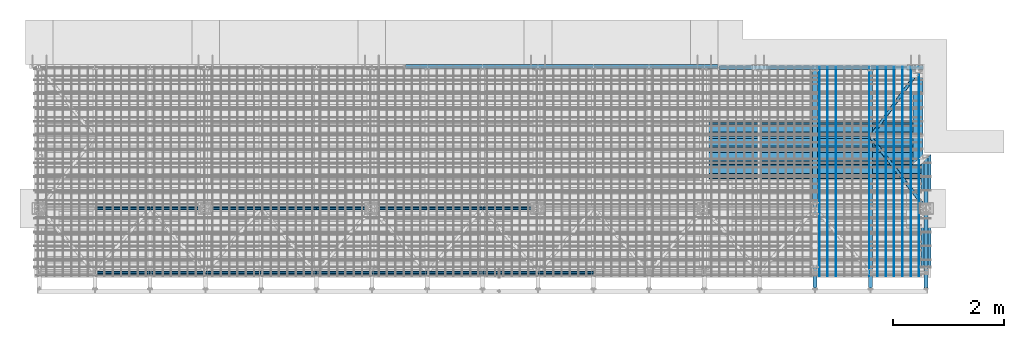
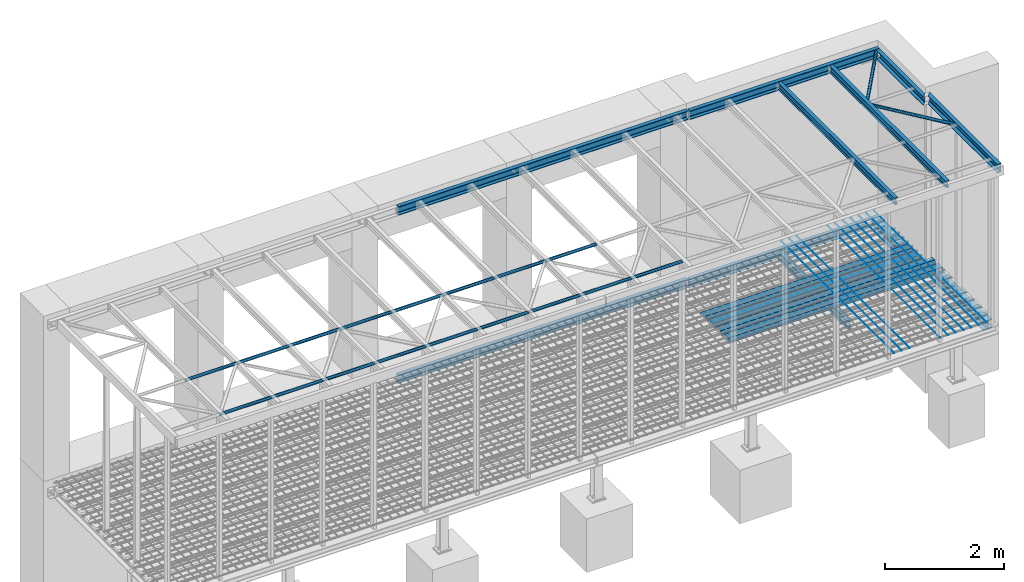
# One storey, part 9 of 26: 41 beams, 41 elements without a shape of their own.
"""IFC2X3 building model written with IfcOpenShell, lengths in millimetres."""

import ifcopenshell
import ifcopenshell.guid

model = None  # the IFC model being written
_history = None  # IfcOwnerHistory: only IFC2X3 demands one
_inside = {}  # id of a spatial element -> (the spatial element, [elements in it])
_under = {}  # id of a project, library or spatial element -> (it, [spatial elements below it])
_declared = {}  # id of a project -> (the project, [libraries it declares])
_typed = {}  # id of a type object -> (the type object, [elements of that type])
_made_of = {}  # id of a material, layer set ... -> (it, [elements and type objects made of it])


def new_model(schema):
    """Start an empty IFC model of exactly this schema.

    Asked for "IFC4X3", IfcOpenShell would pick the latest addendum, in which some entities
    have other attributes; the version numbers below select the first issue.
    IFC2X3 requires an IfcOwnerHistory on every rooted entity: one is made here for all.
    """
    global model, _history
    if schema == "IFC4X3":
        model = ifcopenshell.file(schema_version=(4, 3, 0, 0))
    else:
        model = ifcopenshell.file(schema=schema)
    _inside.clear()
    _under.clear()
    _declared.clear()
    _typed.clear()
    _made_of.clear()
    _history = None
    if model.schema == "IFC2X3":
        org = make("IfcOrganization", Name="unknown")
        user = make(
            "IfcPersonAndOrganization",
            ThePerson=make("IfcPerson", FamilyName="unknown"),
            TheOrganization=org,
        )
        app = make(
            "IfcApplication",
            ApplicationDeveloper=org,
            Version="unknown",
            ApplicationFullName="unknown",
            ApplicationIdentifier="unknown",
        )
        _history = make(
            "IfcOwnerHistory",
            OwningUser=user,
            OwningApplication=app,
            ChangeAction="ADDED",
            CreationDate=0,
        )
    return model


def make(cls, **values):
    """One entity of the class cls with the attributes given. An attribute that is None is left unset."""
    return model.create_entity(
        cls, **{name: value for name, value in values.items() if value is not None}
    )


def rooted(cls, **values):
    """An entity with a GlobalId (a new one), such as an element, a storey or a relation."""
    return make(cls, GlobalId=ifcopenshell.guid.new(), OwnerHistory=_history, **values)


def si_unit(unit_type, name, prefix=None):
    """IfcSIUnit, for example si_unit("LENGTHUNIT", "METRE", prefix="MILLI")."""
    return make("IfcSIUnit", UnitType=unit_type, Prefix=prefix, Name=name)


def assignment(units):
    """IfcUnitAssignment: the units of a project."""
    return None if units is None else make("IfcUnitAssignment", Units=units)


def point(xyz):
    """IfcCartesianPoint."""
    return None if xyz is None else make("IfcCartesianPoint", Coordinates=xyz)


def direction(xyz):
    """IfcDirection."""
    return None if xyz is None else make("IfcDirection", DirectionRatios=xyz)


def frame(location, z_axis=None, x_axis=None):
    """IfcAxis2Placement3D, a coordinate frame: its origin and axes. An axis left out is left unset."""
    return make(
        "IfcAxis2Placement3D",
        Location=point(location),
        Axis=direction(z_axis),
        RefDirection=direction(x_axis),
    )


def frame_2d(location, x_axis=None):
    """IfcAxis2Placement2D, a coordinate frame in the plane: its origin and x axis."""
    return make(
        "IfcAxis2Placement2D", Location=point(location), RefDirection=direction(x_axis)
    )


def origin_with_axes():
    """The frame at (0, 0, 0) with the z axis (0, 0, 1) and the x axis (1, 0, 0) written out."""
    return frame((0.0, 0.0, 0.0), z_axis=(0.0, 0.0, 1.0), x_axis=(1.0, 0.0, 0.0))


def origin_2d_with_axis():
    """The frame at (0, 0) in the plane with the x axis (1, 0) written out."""
    return frame_2d((0.0, 0.0), x_axis=(1.0, 0.0))


def place(relative_to, where):
    """IfcLocalPlacement: puts the frame where relative to a parent placement (None: the world)."""
    return make(
        "IfcLocalPlacement", PlacementRelTo=relative_to, RelativePlacement=where
    )


def context(
    kind, dimensions, precision=None, world=None, true_north=None, identifier=None
):
    """IfcGeometricRepresentationContext, for example the 3D "Model" context."""
    return make(
        "IfcGeometricRepresentationContext",
        ContextIdentifier=identifier,
        ContextType=kind,
        CoordinateSpaceDimension=dimensions,
        Precision=precision,
        WorldCoordinateSystem=world,
        TrueNorth=true_north,
    )


def subcontext(parent, identifier, kind, view, scale=None):
    """IfcGeometricRepresentationSubContext, for example "Body" below "Model"."""
    return make(
        "IfcGeometricRepresentationSubContext",
        ContextIdentifier=identifier,
        ContextType=kind,
        ParentContext=parent,
        TargetScale=scale,
        TargetView=view,
    )


def project(units=None, contexts=None):
    """IfcProject with its units and contexts."""
    return rooted(
        "IfcProject",
        Name="project",
        RepresentationContexts=contexts,
        UnitsInContext=assignment(units),
    )


def spatial(cls, under=None, at=None, **own):
    """A site, building, storey or space (cls), placed at a placement, below another one or the project."""
    s = rooted(cls, ObjectPlacement=at, **own)
    if under is not None:
        _under.setdefault(under.id(), (under, []))[1].append(s)
    return s


def polyline(points):
    """IfcPolyline through the points."""
    return make("IfcPolyline", Points=[point(p) for p in points])


def profile(cls, at=None, kind="AREA", **sizes):
    """A parametric profile (cls). Its sizes go by their IFC names, for example OverallWidth=200.0."""
    return make(cls, ProfileType=kind, Position=at, **sizes)


def circle(**sizes):
    """IfcCircleProfileDef."""
    return profile("IfcCircleProfileDef", **sizes)


def hollow_circle(**sizes):
    """IfcCircleHollowProfileDef."""
    return profile("IfcCircleHollowProfileDef", **sizes)


def i_section(**sizes):
    """IfcIShapeProfileDef."""
    return profile("IfcIShapeProfileDef", **sizes)


def u_section(**sizes):
    """IfcUShapeProfileDef."""
    return profile("IfcUShapeProfileDef", **sizes)


def outline(outer, holes=None, kind="AREA"):
    """IfcArbitraryClosedProfileDef: a profile drawn as a closed curve; with holes, ...WithVoids."""
    if holes is None:
        return make("IfcArbitraryClosedProfileDef", ProfileType=kind, OuterCurve=outer)
    return make(
        "IfcArbitraryProfileDefWithVoids",
        ProfileType=kind,
        OuterCurve=outer,
        InnerCurves=holes,
    )


def extrude(swept, where, along, depth):
    """IfcExtrudedAreaSolid: the profile swept, set in the frame where, extruded along a direction by depth."""
    return make(
        "IfcExtrudedAreaSolid",
        SweptArea=swept,
        Position=where,
        ExtrudedDirection=direction(along),
        Depth=depth,
    )


def boolean(op, a, b):
    """IfcBooleanResult of two solids."""
    return make("IfcBooleanResult", Operator=op, FirstOperand=a, SecondOperand=b)


def clip(a, b, op="DIFFERENCE"):
    """IfcBooleanClippingResult: the solid a cut by the half space b."""
    return make(
        "IfcBooleanClippingResult", Operator=op, FirstOperand=a, SecondOperand=b
    )


def halfspace(plane, agree):
    """IfcHalfSpaceSolid: all space on one side of the plane z = 0 of the frame plane."""
    return make(
        "IfcHalfSpaceSolid",
        BaseSurface=make("IfcPlane", Position=plane),
        AgreementFlag=agree,
    )


def shape(context_of_items, identifier, shape_type, items):
    """IfcShapeRepresentation: the items that make up one representation, for example the "Body"."""
    return make(
        "IfcShapeRepresentation",
        ContextOfItems=context_of_items,
        RepresentationIdentifier=identifier,
        RepresentationType=shape_type,
        Items=items,
    )


def material(Name=None, Category=None):
    """IfcMaterial."""
    return make("IfcMaterial", Name=Name, Category=Category)


def made_of(thing, what):
    """Note that an element or type object is made of a material, layer set ...; save() writes the relation."""
    if what is not None:
        _made_of.setdefault(what.id(), (what, []))[1].append(thing)
    return thing


def type_object(cls, material=None, **own):
    """A type object (cls), such as IfcWallType, which elements share."""
    return made_of(rooted(cls, **own), material)


def element(
    cls,
    number,
    at=None,
    inside=None,
    cuts=None,
    type_object=None,
    material=None,
    context=None,
    identifier="Body",
    shape_type=None,
    held_by="IfcProductDefinitionShape",
    body=None,
    shapes=None,
    **own,
):
    """One element of the class cls, such as IfcWall. Its Tag is "e" and its number.

    at: its placement. inside: the storey or other place that contains it. cuts: it is an
    opening in that element (IfcRelVoidsElement). A single representation is given by context,
    identifier, shape_type and body (its items); several are given by shapes. held_by: the class
    of the entity that holds the representations. save() writes the other relations.
    """
    e = rooted(cls, Tag="e%d" % number, ObjectPlacement=at, **own)
    if body is not None:
        shapes = [shape(context, identifier, shape_type, body)]
    if shapes is not None:
        e.Representation = make(held_by, Representations=shapes)
    if inside is not None:
        _inside.setdefault(inside.id(), (inside, []))[1].append(e)
    if cuts is not None:
        rooted(
            "IfcRelVoidsElement", RelatingBuildingElement=cuts, RelatedOpeningElement=e
        )
    if type_object is not None:
        _typed.setdefault(type_object.id(), (type_object, []))[1].append(e)
    return made_of(e, material)


def aggregate(whole, parts):
    """IfcRelAggregates: a whole, such as a stair, and the parts it consists of."""
    return rooted("IfcRelAggregates", RelatingObject=whole, RelatedObjects=parts)


def save(model, path):
    """Write the relations noted so far, then the file.

    IfcRelAggregates (storeys below a building ...), IfcRelContainedInSpatialStructure (elements
    in a storey), IfcRelDefinesByType, IfcRelAssociatesMaterial and IfcRelDeclares: one each for
    every whole, place, type object, material and project.
    """
    for whole, parts in _under.values():
        aggregate(whole, parts)
    for where, things in _inside.values():
        rooted(
            "IfcRelContainedInSpatialStructure",
            RelatedElements=things,
            RelatingStructure=where,
        )
    for kind, things in _typed.values():
        rooted("IfcRelDefinesByType", RelatedObjects=things, RelatingType=kind)
    for what, things in _made_of.values():
        rooted("IfcRelAssociatesMaterial", RelatedObjects=things, RelatingMaterial=what)
    for by, libraries in _declared.values():
        rooted("IfcRelDeclares", RelatingContext=by, RelatedDefinitions=libraries)
    model.write(path)


model = new_model("IFC2X3")

# Units and contexts
model_context = context("Model", 3, precision=1e-05, world=origin_with_axes())
body_context = subcontext(model_context, "Body", "Model", "MODEL_VIEW")
ifc_project = project(units=[si_unit("LENGTHUNIT", "METRE", prefix="MILLI"), si_unit("AREAUNIT", "SQUARE_METRE"), si_unit("VOLUMEUNIT", "CUBIC_METRE"), si_unit("MASSUNIT", "GRAM", prefix="KILO"), si_unit("TIMEUNIT", "SECOND"), si_unit("PLANEANGLEUNIT", "RADIAN"), si_unit("SOLIDANGLEUNIT", "STERADIAN"), si_unit("THERMODYNAMICTEMPERATUREUNIT", "DEGREE_CELSIUS"), si_unit("LUMINOUSINTENSITYUNIT", "LUMEN")], contexts=[model_context])

# Site, building, storey
site_placement = place(None, origin_with_axes())
site = spatial("IfcSite", under=ifc_project, at=site_placement, Name="Undefined", CompositionType="ELEMENT")
building_placement = place(site_placement, origin_with_axes())
building = spatial("IfcBuilding", under=site, at=building_placement, Name="Undefined", CompositionType="ELEMENT")
storey_placement = place(building_placement, origin_with_axes())
storey = spatial("IfcBuildingStorey", under=building, at=storey_placement, Name="Undefined", CompositionType="ELEMENT", Elevation=0.0)

# Assembly, beam
assembly_1_placement = place(storey_placement, origin_with_axes())
assembly_1 = element("IfcElementAssembly", 1, at=assembly_1_placement, inside=storey, Name="Steel Assembly", AssemblyPlace="NOTDEFINED", PredefinedType="RIGID_FRAME")
ifc_material = material(Name="STEEL/S235JR")
beam_type_1 = type_object("IfcBeamType", Name="D8", PredefinedType="NOTDEFINED")
beam_1_placement = place(assembly_1_placement, frame((15927.5, 3814.99758213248, -49.0), z_axis=(0.0, 0.0, 1.0), x_axis=(0.0, -1.0, 0.0)))
beam_1 = element("IfcBeam", 2, at=beam_1_placement, type_object=beam_type_1, material=ifc_material, Name="VÝSTUZ PLECHODOSKA", ObjectType="D8", context=body_context, shape_type="SweptSolid", body=[
    extrude(circle(Radius=4.0, at=origin_2d_with_axis()), frame((3779.99758213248, 0.0, 0.0), z_axis=(-1.0, 0.0, 0.0), x_axis=(0.0, -1.0, 0.0)), (0.0, 0.0, 1.0), 3780.0),
])
aggregate(assembly_1, [beam_1])

assembly_2_placement = place(storey_placement, origin_with_axes())
assembly_2 = element("IfcElementAssembly", 3, at=assembly_2_placement, inside=storey, Name="Steel Assembly", AssemblyPlace="NOTDEFINED", PredefinedType="RIGID_FRAME")
beam_2_placement = place(assembly_2_placement, frame((15777.5, 3814.99758213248, -49.0), z_axis=(0.0, 0.0, 1.0), x_axis=(0.0, -1.0, 0.0)))
beam_2 = element("IfcBeam", 4, at=beam_2_placement, type_object=beam_type_1, material=ifc_material, Name="VÝSTUZ PLECHODOSKA", ObjectType="D8", context=body_context, shape_type="SweptSolid", body=[
    extrude(circle(Radius=4.0, at=origin_2d_with_axis()), frame((3779.99758213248, 0.0, 0.0), z_axis=(-1.0, 0.0, 0.0), x_axis=(0.0, -1.0, 0.0)), (0.0, 0.0, 1.0), 3780.0),
])
aggregate(assembly_2, [beam_2])

assembly_3_placement = place(storey_placement, origin_with_axes())
assembly_3 = element("IfcElementAssembly", 5, at=assembly_3_placement, inside=storey, Name="Steel Assembly", AssemblyPlace="NOTDEFINED", PredefinedType="RIGID_FRAME")
beam_3_placement = place(assembly_3_placement, frame((15627.5, 3814.99758213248, -49.0), z_axis=(0.0, 0.0, 1.0), x_axis=(0.0, -1.0, 0.0)))
beam_3 = element("IfcBeam", 6, at=beam_3_placement, type_object=beam_type_1, material=ifc_material, Name="VÝSTUZ PLECHODOSKA", ObjectType="D8", context=body_context, shape_type="SweptSolid", body=[
    extrude(circle(Radius=4.0, at=origin_2d_with_axis()), frame((3779.99758213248, 0.0, 0.0), z_axis=(-1.0, 0.0, 0.0), x_axis=(0.0, -1.0, 0.0)), (0.0, 0.0, 1.0), 3780.0),
])
aggregate(assembly_3, [beam_3])

assembly_4_placement = place(storey_placement, origin_with_axes())
assembly_4 = element("IfcElementAssembly", 7, at=assembly_4_placement, inside=storey, Name="Steel Assembly", AssemblyPlace="NOTDEFINED", PredefinedType="RIGID_FRAME")
beam_4_placement = place(assembly_4_placement, frame((15477.5, 3814.99758213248, -49.0), z_axis=(0.0, 0.0, 1.0), x_axis=(0.0, -1.0, 0.0)))
beam_4 = element("IfcBeam", 8, at=beam_4_placement, type_object=beam_type_1, material=ifc_material, Name="VÝSTUZ PLECHODOSKA", ObjectType="D8", context=body_context, shape_type="SweptSolid", body=[
    extrude(circle(Radius=4.0, at=origin_2d_with_axis()), frame((3779.99758213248, 0.0, 0.0), z_axis=(-1.0, 0.0, 0.0), x_axis=(0.0, -1.0, 0.0)), (0.0, 0.0, 1.0), 3780.0),
])
aggregate(assembly_4, [beam_4])

assembly_5_placement = place(storey_placement, origin_with_axes())
assembly_5 = element("IfcElementAssembly", 9, at=assembly_5_placement, inside=storey, Name="Steel Assembly", AssemblyPlace="NOTDEFINED", PredefinedType="RIGID_FRAME")
beam_5_placement = place(assembly_5_placement, frame((15327.5, 3814.99758213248, -49.0), z_axis=(0.0, 0.0, 1.0), x_axis=(0.0, -1.0, 0.0)))
beam_5 = element("IfcBeam", 10, at=beam_5_placement, type_object=beam_type_1, material=ifc_material, Name="VÝSTUZ PLECHODOSKA", ObjectType="D8", context=body_context, shape_type="SweptSolid", body=[
    extrude(circle(Radius=4.0, at=origin_2d_with_axis()), frame((3779.99758213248, 0.0, 0.0), z_axis=(-1.0, 0.0, 0.0), x_axis=(0.0, -1.0, 0.0)), (0.0, 0.0, 1.0), 3780.0),
])
aggregate(assembly_5, [beam_5])

assembly_6_placement = place(storey_placement, origin_with_axes())
assembly_6 = element("IfcElementAssembly", 11, at=assembly_6_placement, inside=storey, Name="Steel Assembly", AssemblyPlace="NOTDEFINED", PredefinedType="RIGID_FRAME")
beam_6_placement = place(assembly_6_placement, frame((15177.5, 3814.99758213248, -49.0), z_axis=(0.0, 0.0, 1.0), x_axis=(0.0, -1.0, 0.0)))
beam_6 = element("IfcBeam", 12, at=beam_6_placement, type_object=beam_type_1, material=ifc_material, Name="VÝSTUZ PLECHODOSKA", ObjectType="D8", context=body_context, shape_type="SweptSolid", body=[
    extrude(circle(Radius=4.0, at=origin_2d_with_axis()), frame((3779.99758213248, 0.0, 0.0), z_axis=(-1.0, 0.0, 0.0), x_axis=(0.0, -1.0, 0.0)), (0.0, 0.0, 1.0), 3780.0),
])
aggregate(assembly_6, [beam_6])

assembly_7_placement = place(storey_placement, origin_with_axes())
assembly_7 = element("IfcElementAssembly", 13, at=assembly_7_placement, inside=storey, Name="Steel Assembly", AssemblyPlace="NOTDEFINED", PredefinedType="RIGID_FRAME")
beam_7_placement = place(assembly_7_placement, frame((15027.5, 3814.99758213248, -49.0), z_axis=(0.0, 0.0, 1.0), x_axis=(0.0, -1.0, 0.0)))
beam_7 = element("IfcBeam", 14, at=beam_7_placement, type_object=beam_type_1, material=ifc_material, Name="VÝSTUZ PLECHODOSKA", ObjectType="D8", context=body_context, shape_type="SweptSolid", body=[
    extrude(circle(Radius=4.0, at=origin_2d_with_axis()), frame((3779.99758213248, 0.0, 0.0), z_axis=(-1.0, 0.0, 0.0), x_axis=(0.0, -1.0, 0.0)), (0.0, 0.0, 1.0), 3780.0),
])
aggregate(assembly_7, [beam_7])

assembly_8_placement = place(storey_placement, origin_with_axes())
assembly_8 = element("IfcElementAssembly", 15, at=assembly_8_placement, inside=storey, Name="Steel Assembly", AssemblyPlace="NOTDEFINED", PredefinedType="RIGID_FRAME")
beam_8_placement = place(assembly_8_placement, frame((14427.5, 3814.99758213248, -49.0), z_axis=(0.0, 0.0, 1.0), x_axis=(0.0, -1.0, 0.0)))
beam_8 = element("IfcBeam", 16, at=beam_8_placement, type_object=beam_type_1, material=ifc_material, Name="VÝSTUZ PLECHODOSKA", ObjectType="D8", context=body_context, shape_type="SweptSolid", body=[
    extrude(circle(Radius=4.0, at=origin_2d_with_axis()), frame((3779.99758213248, 0.0, 0.0), z_axis=(-1.0, 0.0, 0.0), x_axis=(0.0, -1.0, 0.0)), (0.0, 0.0, 1.0), 3780.0),
])
aggregate(assembly_8, [beam_8])

assembly_9_placement = place(storey_placement, origin_with_axes())
assembly_9 = element("IfcElementAssembly", 17, at=assembly_9_placement, inside=storey, Name="Steel Assembly", AssemblyPlace="NOTDEFINED", PredefinedType="RIGID_FRAME")
beam_9_placement = place(assembly_9_placement, frame((14277.5, 3814.99758213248, -49.0), z_axis=(0.0, 0.0, 1.0), x_axis=(0.0, -1.0, 0.0)))
beam_9 = element("IfcBeam", 18, at=beam_9_placement, type_object=beam_type_1, material=ifc_material, Name="VÝSTUZ PLECHODOSKA", ObjectType="D8", context=body_context, shape_type="SweptSolid", body=[
    extrude(circle(Radius=4.0, at=origin_2d_with_axis()), frame((3779.99758213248, 0.0, 0.0), z_axis=(-1.0, 0.0, 0.0), x_axis=(0.0, -1.0, 0.0)), (0.0, 0.0, 1.0), 3780.0),
])
aggregate(assembly_9, [beam_9])

assembly_10_placement = place(storey_placement, origin_with_axes())
assembly_10 = element("IfcElementAssembly", 19, at=assembly_10_placement, inside=storey, Name="Steel Assembly", AssemblyPlace="NOTDEFINED", PredefinedType="RIGID_FRAME")
beam_10_placement = place(assembly_10_placement, frame((14127.5, 3814.99758213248, -49.0), z_axis=(0.0, 0.0, 1.0), x_axis=(0.0, -1.0, 0.0)))
beam_10 = element("IfcBeam", 20, at=beam_10_placement, type_object=beam_type_1, material=ifc_material, Name="VÝSTUZ PLECHODOSKA", ObjectType="D8", context=body_context, shape_type="SweptSolid", body=[
    extrude(circle(Radius=4.0, at=origin_2d_with_axis()), frame((3779.99758213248, 0.0, 0.0), z_axis=(-1.0, 0.0, 0.0), x_axis=(0.0, -1.0, 0.0)), (0.0, 0.0, 1.0), 3780.0),
])
aggregate(assembly_10, [beam_10])

assembly_11_placement = place(storey_placement, origin_with_axes())
assembly_11 = element("IfcElementAssembly", 21, at=assembly_11_placement, inside=storey, Name="Steel Assembly", AssemblyPlace="NOTDEFINED", PredefinedType="RIGID_FRAME")
beam_type_2 = type_object("IfcBeamType", Name="TR50/250", PredefinedType="NOTDEFINED")
beam_11_placement = place(assembly_11_placement, frame((11960.0, 2315.04756992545, -135.38), z_axis=(0.0, 0.0, 1.0), x_axis=(1.0, 0.0, 0.0)))
beam_11 = element("IfcBeam", 22, at=beam_11_placement, type_object=beam_type_2, material=ifc_material, Name="Trapézový plech", ObjectType="TR50/250", context=body_context, shape_type="CSG", body=[
    boolean("DIFFERENCE", extrude(outline(polyline([(-487.739990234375, -24.6299991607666), (-524.950012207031, -24.6200008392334), (-524.950012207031, -23.8700008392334), (-488.149993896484, -23.8700008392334), (-457.649993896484, 24.6299991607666), (-322.239990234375, 24.6299991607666), (-291.739990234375, -23.8700008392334), (-238.149993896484, -23.8700008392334), (-207.649993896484, 24.6299991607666), (-72.2399978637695, 24.6299991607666), (-41.7400016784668, -23.8700008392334), (11.8500003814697, -23.8700008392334), (42.3499984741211, 24.6299991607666), (177.759994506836, 24.6299991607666), (208.259994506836, -23.8700008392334), (261.850006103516, -23.8700008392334), (292.350006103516, 24.6299991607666), (427.760009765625, 24.6299991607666), (458.260009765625, -23.8700008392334), (511.850006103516, -23.8700008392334), (524.309997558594, -4.05000019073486), (524.950012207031, -4.44999980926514), (512.260009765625, -24.6200008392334), (457.850006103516, -24.6200008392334), (427.350006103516, 23.8799991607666), (292.760009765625, 23.8799991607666), (262.260009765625, -24.6200008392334), (207.850006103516, -24.6200008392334), (177.350006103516, 23.8799991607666), (42.7599983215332, 23.8799991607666), (12.2600002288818, -24.6200008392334), (-42.1500015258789, -24.6200008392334), (-72.6500015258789, 23.8799991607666), (-207.240005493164, 23.8799991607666), (-237.740005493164, -24.6200008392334), (-292.149993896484, -24.6200008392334), (-322.649993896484, 23.8799991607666), (-457.239990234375, 23.8799991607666), (-487.739990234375, -24.6299991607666)])), frame((4180.0, 0.0, 0.0), z_axis=(-1.0, 0.0, 0.0), x_axis=(0.0, -1.0, 0.0)), (0.0, 0.0, 1.0), 4180.0), extrude(outline(polyline([(0.0, 0.0), (145.0, 0.0), (145.0, 609.99755859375), (0.0, 609.99755859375), (0.0, 0.0)])), frame((4180.0, -85.0475699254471, 27.5), z_axis=(0.0, 0.0, -1.0), x_axis=(-1.0, 0.0, 0.0)), (0.0, 0.0, 1.0), 55.0)),
])
aggregate(assembly_11, [beam_11])

assembly_12_placement = place(storey_placement, origin_with_axes())
assembly_12 = element("IfcElementAssembly", 23, at=assembly_12_placement, inside=storey, Name="Steel Assembly", AssemblyPlace="NOTDEFINED", PredefinedType="RIGID_FRAME")
beam_type_3 = type_object("IfcBeamType", Name="IPE180", PredefinedType="NOTDEFINED")
beam_12_placement = place(assembly_12_placement, frame((14050.0, 1370.0, -250.0), z_axis=(0.0, 0.0, 1.0), x_axis=(0.0, 1.0, 0.0)))
beam_12 = element("IfcBeam", 24, at=beam_12_placement, type_object=beam_type_3, material=ifc_material, Name="NOSNÍK", ObjectType="IPE180", context=body_context, shape_type="SweptSolid", body=[
    extrude(i_section(OverallWidth=91.0, OverallDepth=180.0, WebThickness=5.300000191, FlangeThickness=8.0, FilletRadius=9.0, at=origin_2d_with_axis()), frame((2375.0, 0.0, 0.0), z_axis=(-1.0, 0.0, 0.0), x_axis=(0.0, -1.0, 0.0)), (0.0, 0.0, 1.0), 2375.0),
])
aggregate(assembly_12, [beam_12])

assembly_13_placement = place(storey_placement, origin_with_axes())
assembly_13 = element("IfcElementAssembly", 25, at=assembly_13_placement, inside=storey, Name="Steel Assembly", AssemblyPlace="NOTDEFINED", PredefinedType="RIGID_FRAME")
beam_type_4 = type_object("IfcBeamType", Name="HEB180", PredefinedType="NOTDEFINED")
beam_13_placement = place(assembly_13_placement, frame((15905.0, 3840.0, -250.0), z_axis=(0.0, 0.0, 1.0), x_axis=(0.0, -1.0, 0.0)))
beam_13 = element("IfcBeam", 26, at=beam_13_placement, type_object=beam_type_4, material=ifc_material, Name="NOSNÍK", ObjectType="HEB180", context=body_context, shape_type="Clipping", body=[
    clip(extrude(i_section(OverallWidth=180.0, OverallDepth=180.0, WebThickness=8.5, FlangeThickness=14.0, FilletRadius=15.0, at=origin_2d_with_axis()), frame((1800.0, 0.0, 0.0), z_axis=(-1.0, 0.0, 0.0), x_axis=(0.0, -1.0, 0.0)), (0.0, 0.0, 1.0), 1800.0), halfspace(frame((1600.0, 100.0, 90.0), z_axis=(0.707106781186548, 0.707106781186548, 0.0), x_axis=(0.0, 0.0, -1.0)), False)),
])
aggregate(assembly_13, [beam_13])

assembly_14_placement = place(storey_placement, origin_with_axes())
assembly_14 = element("IfcElementAssembly", 27, at=assembly_14_placement, inside=storey, Name="Steel Assembly", AssemblyPlace="NOTDEFINED", PredefinedType="RIGID_FRAME")
beam_14_placement = place(assembly_14_placement, frame((16050.0, 210.0, -250.0), z_axis=(0.0, 0.0, -1.0), x_axis=(0.0, 1.0, 0.0)))
beam_14 = element("IfcBeam", 28, at=beam_14_placement, type_object=beam_type_4, material=ifc_material, Name="NOSNÍK", ObjectType="HEB180", context=body_context, shape_type="Clipping", body=[
    clip(extrude(i_section(OverallWidth=180.0, OverallDepth=180.0, WebThickness=8.5, FlangeThickness=14.0, FilletRadius=15.0, at=origin_2d_with_axis()), frame((2030.0, 0.0, 0.0), z_axis=(-1.0, 0.0, 0.0), x_axis=(0.0, -1.0, 0.0)), (0.0, 0.0, 1.0), 2030.0), halfspace(frame((2030.0, 100.0, 110.0), z_axis=(0.707106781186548, -0.707106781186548, 0.0), x_axis=(0.0, 0.0, -1.0)), False)),
])
aggregate(assembly_14, [beam_14])

assembly_15_placement = place(storey_placement, origin_with_axes())
assembly_15 = element("IfcElementAssembly", 29, at=assembly_15_placement, inside=storey, Name="Steel Assembly", AssemblyPlace="NOTDEFINED", PredefinedType="RIGID_FRAME")
beam_type_5 = type_object("IfcBeamType", Name="UPE180", PredefinedType="NOTDEFINED")
beam_15_placement = place(assembly_15_placement, frame((12295.0, 3822.5, -250.0), z_axis=(0.0, 0.0, -1.0), x_axis=(-1.0, 0.0, 0.0)))
beam_15 = element("IfcBeam", 30, at=beam_15_placement, type_object=beam_type_5, material=ifc_material, Name="NOSNÍK", ObjectType="UPE180", context=body_context, shape_type="SweptSolid", body=[
    extrude(u_section(Depth=180.0, FlangeWidth=75.0, WebThickness=5.5, FlangeThickness=10.5, FilletRadius=12.0, at=origin_2d_with_axis()), frame((5635.0, 0.0, 0.0), z_axis=(-1.0, 0.0, 0.0), x_axis=(0.0, -1.0, 0.0)), (0.0, 0.0, 1.0), 5635.0),
])
aggregate(assembly_15, [beam_15])

assembly_16_placement = place(storey_placement, origin_with_axes())
assembly_16 = element("IfcElementAssembly", 31, at=assembly_16_placement, inside=storey, Name="Steel Assembly", AssemblyPlace="NOTDEFINED", PredefinedType="RIGID_FRAME")
beam_16_placement = place(assembly_16_placement, frame((15962.5, 3745.0, 3210.0), z_axis=(0.0, 0.0, 1.0), x_axis=(0.0, -1.0, 0.0)))
beam_16 = element("IfcBeam", 32, at=beam_16_placement, type_object=beam_type_5, material=ifc_material, Name="NOSNÍK", ObjectType="UPE180", context=body_context, shape_type="Clipping", body=[
    clip(extrude(u_section(Depth=180.0, FlangeWidth=75.0, WebThickness=5.5, FlangeThickness=10.5, FilletRadius=12.0, at=origin_2d_with_axis()), frame((1590.0, 0.0, 0.0), z_axis=(-1.0, 0.0, 0.0), x_axis=(0.0, -1.0, 0.0)), (0.0, 0.0, 1.0), 1590.0), halfspace(frame((1515.0, 37.5, 90.0), z_axis=(0.707106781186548, 0.707106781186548, 0.0), x_axis=(0.0, 0.0, -1.0)), False)),
])
aggregate(assembly_16, [beam_16])

assembly_17_placement = place(storey_placement, origin_with_axes())
assembly_17 = element("IfcElementAssembly", 33, at=assembly_17_placement, inside=storey, Name="Steel Assembly", AssemblyPlace="NOTDEFINED", PredefinedType="RIGID_FRAME")
beam_17_placement = place(assembly_17_placement, frame((16005.0, 3802.5, 3210.0), z_axis=(0.0, 0.0, -1.0), x_axis=(-1.0, 0.0, 0.0)))
beam_17 = element("IfcBeam", 34, at=beam_17_placement, type_object=beam_type_5, material=ifc_material, Name="NOSNÍK", ObjectType="UPE180", context=body_context, shape_type="SweptSolid", body=[
    extrude(u_section(Depth=180.0, FlangeWidth=75.0, WebThickness=5.5, FlangeThickness=10.5, FilletRadius=12.0, at=origin_2d_with_axis()), frame((3690.0, 0.0, 0.0), z_axis=(-1.0, 0.0, 0.0), x_axis=(0.0, -1.0, 0.0)), (0.0, 0.0, 1.0), 3690.0),
])
aggregate(assembly_17, [beam_17])

assembly_18_placement = place(storey_placement, origin_with_axes())
assembly_18 = element("IfcElementAssembly", 35, at=assembly_18_placement, inside=storey, Name="Steel Assembly", AssemblyPlace="NOTDEFINED", PredefinedType="RIGID_FRAME")
beam_18_placement = place(assembly_18_placement, frame((12295.0, 3822.5, 3210.0), z_axis=(0.0, 0.0, -1.0), x_axis=(-1.0, 0.0, 0.0)))
beam_18 = element("IfcBeam", 36, at=beam_18_placement, type_object=beam_type_5, material=ifc_material, Name="NOSNÍK", ObjectType="UPE180", context=body_context, shape_type="SweptSolid", body=[
    extrude(u_section(Depth=180.0, FlangeWidth=75.0, WebThickness=5.5, FlangeThickness=10.5, FilletRadius=12.0, at=origin_2d_with_axis()), frame((5635.0, 0.0, 0.0), z_axis=(-1.0, 0.0, 0.0), x_axis=(0.0, -1.0, 0.0)), (0.0, 0.0, 1.0), 5635.0),
])
aggregate(assembly_18, [beam_18])

assembly_19_placement = place(storey_placement, origin_with_axes())
assembly_19 = element("IfcElementAssembly", 37, at=assembly_19_placement, inside=storey, Name="Steel Assembly", AssemblyPlace="NOTDEFINED", PredefinedType="RIGID_FRAME")
beam_19_placement = place(assembly_19_placement, frame((15797.0, 3802.5, -250.0), z_axis=(0.0, 0.0, -1.0), x_axis=(-1.0, 0.0, 0.0)))
beam_19 = element("IfcBeam", 38, at=beam_19_placement, type_object=beam_type_5, material=ifc_material, Name="NOSNÍK", ObjectType="UPE180", context=body_context, shape_type="SweptSolid", body=[
    extrude(u_section(Depth=180.0, FlangeWidth=75.0, WebThickness=5.5, FlangeThickness=10.5, FilletRadius=12.0, at=origin_2d_with_axis()), frame((3482.0, 0.0, 0.0), z_axis=(-1.0, 0.0, 0.0), x_axis=(0.0, -1.0, 0.0)), (0.0, 0.0, 1.0), 3482.0),
])
aggregate(assembly_19, [beam_19])

assembly_20_placement = place(storey_placement, origin_with_axes())
assembly_20 = element("IfcElementAssembly", 39, at=assembly_20_placement, inside=storey, Name="Steel Assembly", AssemblyPlace="NOTDEFINED", PredefinedType="RIGID_FRAME")
beam_20_placement = place(assembly_20_placement, frame((16052.5, -180.0, 3210.0), z_axis=(0.0, 0.0, -1.0), x_axis=(0.0, 1.0, 0.0)))
beam_20 = element("IfcBeam", 40, at=beam_20_placement, type_object=beam_type_5, material=ifc_material, Name="NOSNÍK", ObjectType="UPE180", context=body_context, shape_type="Clipping", body=[
    clip(extrude(u_section(Depth=180.0, FlangeWidth=75.0, WebThickness=5.5, FlangeThickness=10.5, FilletRadius=12.0, at=origin_2d_with_axis()), frame((2410.0, 0.0, 0.0), z_axis=(-1.0, 0.0, 0.0), x_axis=(0.0, -1.0, 0.0)), (0.0, 0.0, 1.0), 2410.0), halfspace(frame((2410.0, 37.5, 90.0), z_axis=(0.707106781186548, -0.707106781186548, 0.0), x_axis=(0.0, 0.0, -1.0)), False)),
])
aggregate(assembly_20, [beam_20])

assembly_21_placement = place(storey_placement, origin_with_axes())
assembly_21 = element("IfcElementAssembly", 41, at=assembly_21_placement, inside=storey, Name="Steel Assembly", AssemblyPlace="NOTDEFINED", PredefinedType="RIGID_FRAME")
beam_type_6 = type_object("IfcBeamType", Name="CHS60.3*5", PredefinedType="NOTDEFINED")
beam_21_placement = place(assembly_21_placement, frame((15050.0, 2550.0, 3230.0), z_axis=(0.0, 0.0, 1.0), x_axis=(0.612667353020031, -0.79034088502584, 0.0)))
beam_21 = element("IfcBeam", 42, at=beam_21_placement, type_object=beam_type_6, material=ifc_material, Name="NOSNÍK", ObjectType="CHS60.3*5", context=body_context, shape_type="CSG", body=[
    boolean("DIFFERENCE", boolean("DIFFERENCE", boolean("DIFFERENCE", extrude(hollow_circle(Radius=30.15, WallThickness=5.0, at=origin_2d_with_axis()), frame((1632.20709478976, -2.71817084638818e-13, 0.0), z_axis=(-1.0, 0.0, 0.0), x_axis=(0.0, -1.0, 0.0)), (0.0, 0.0, 1.0), 1632.2), extrude(hollow_circle(Radius=30.15, WallThickness=5.0, at=origin_2d_with_axis()), frame((581.421318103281, 750.033499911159, -1.50976120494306e-10), z_axis=(-0.612667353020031, -0.79034088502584, 0.0), x_axis=(-0.79034088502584, 0.612667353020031, 0.0)), (0.0, 0.0, 1.0), 949.0)), extrude(hollow_circle(Radius=30.15, WallThickness=5.0, at=origin_2d_with_axis()), frame((1653.34411846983, 27.2667601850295, -1.50976120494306e-10), z_axis=(-0.612667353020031, -0.79034088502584, 0.0), x_axis=(-0.79034088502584, 0.612667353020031, 0.0)), (0.0, 0.0, 1.0), 1034.5)), halfspace(frame((-35.0578133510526, 30.1500000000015, -30.1500000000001), z_axis=(-0.612667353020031, -0.79034088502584, 0.0), x_axis=(0.0, 0.0, 1.0)), False)),
])
aggregate(assembly_21, [beam_21])

assembly_22_placement = place(storey_placement, origin_with_axes())
assembly_22 = element("IfcElementAssembly", 43, at=assembly_22_placement, inside=storey, Name="Steel Assembly", AssemblyPlace="NOTDEFINED", PredefinedType="RIGID_FRAME")
beam_22_placement = place(assembly_22_placement, frame((15959.75, 3800.0, 3230.0), z_axis=(0.0, 0.0, -1.0), x_axis=(-0.588450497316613, -0.808533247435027, 0.0)))
beam_22 = element("IfcBeam", 44, at=beam_22_placement, type_object=beam_type_6, material=ifc_material, Name="NOSNÍK", ObjectType="CHS60.3*5", context=body_context, shape_type="CSG", body=[
    boolean("DIFFERENCE", boolean("DIFFERENCE", extrude(hollow_circle(Radius=30.15, WallThickness=5.0, at=origin_2d_with_axis()), frame((1546.00939922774, 0.0, 0.0), z_axis=(-1.0, 0.0, 0.0), x_axis=(0.0, -1.0, 0.0)), (0.0, 0.0, 1.0), 1546.0), extrude(hollow_circle(Radius=30.15, WallThickness=5.0, at=origin_2d_with_axis()), frame((987.569877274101, -767.298051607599, 9.09494701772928e-13), z_axis=(0.588450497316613, 0.808533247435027, 0.0), x_axis=(-0.808533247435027, 0.588450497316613, 0.0)), (0.0, 0.0, 1.0), 949.0)), halfspace(frame((1583.44207669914, -30.1499999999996, -30.1500000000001), z_axis=(0.588450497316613, 0.808533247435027, 0.0), x_axis=(0.0, 0.0, 1.0)), False)),
])
aggregate(assembly_22, [beam_22])

assembly_23_placement = place(storey_placement, origin_with_axes())
assembly_23 = element("IfcElementAssembly", 45, at=assembly_23_placement, inside=storey, Name="Steel Assembly", AssemblyPlace="NOTDEFINED", PredefinedType="RIGID_FRAME")
beam_23_placement = place(assembly_23_placement, frame((9052.35, 100.0, 3230.0), z_axis=(0.0, 0.0, -1.0), x_axis=(1.0, 0.0, 0.0)))
beam_23 = element("IfcBeam", 46, at=beam_23_placement, type_object=beam_type_6, material=ifc_material, Name="NOSNÍK", ObjectType="CHS60.3*5", context=body_context, shape_type="SweptSolid", body=[
    extrude(hollow_circle(Radius=30.15, WallThickness=5.0, at=origin_2d_with_axis()), frame((995.299999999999, 0.0, 0.0), z_axis=(-1.0, 0.0, 0.0), x_axis=(0.0, -1.0, 0.0)), (0.0, 0.0, 1.0), 995.3),
])
aggregate(assembly_23, [beam_23])

assembly_24_placement = place(storey_placement, origin_with_axes())
assembly_24 = element("IfcElementAssembly", 47, at=assembly_24_placement, inside=storey, Name="Steel Assembly", AssemblyPlace="NOTDEFINED", PredefinedType="RIGID_FRAME")
beam_24_placement = place(assembly_24_placement, frame((8052.35, 100.0, 3230.0), z_axis=(0.0, 0.0, -1.0), x_axis=(1.0, 0.0, 0.0)))
beam_24 = element("IfcBeam", 48, at=beam_24_placement, type_object=beam_type_6, material=ifc_material, Name="NOSNÍK", ObjectType="CHS60.3*5", context=body_context, shape_type="SweptSolid", body=[
    extrude(hollow_circle(Radius=30.15, WallThickness=5.0, at=origin_2d_with_axis()), frame((995.299999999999, 0.0, 0.0), z_axis=(-1.0, 0.0, 0.0), x_axis=(0.0, -1.0, 0.0)), (0.0, 0.0, 1.0), 995.3),
])
aggregate(assembly_24, [beam_24])

assembly_25_placement = place(storey_placement, origin_with_axes())
assembly_25 = element("IfcElementAssembly", 49, at=assembly_25_placement, inside=storey, Name="Steel Assembly", AssemblyPlace="NOTDEFINED", PredefinedType="RIGID_FRAME")
beam_25_placement = place(assembly_25_placement, frame((7052.35, 100.0, 3230.0), z_axis=(0.0, 0.0, -1.0), x_axis=(1.0, 0.0, 0.0)))
beam_25 = element("IfcBeam", 50, at=beam_25_placement, type_object=beam_type_6, material=ifc_material, Name="NOSNÍK", ObjectType="CHS60.3*5", context=body_context, shape_type="SweptSolid", body=[
    extrude(hollow_circle(Radius=30.15, WallThickness=5.0, at=origin_2d_with_axis()), frame((995.299999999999, 0.0, 0.0), z_axis=(-1.0, 0.0, 0.0), x_axis=(0.0, -1.0, 0.0)), (0.0, 0.0, 1.0), 995.3),
])
aggregate(assembly_25, [beam_25])

assembly_26_placement = place(storey_placement, origin_with_axes())
assembly_26 = element("IfcElementAssembly", 51, at=assembly_26_placement, inside=storey, Name="Steel Assembly", AssemblyPlace="NOTDEFINED", PredefinedType="RIGID_FRAME")
beam_26_placement = place(assembly_26_placement, frame((6052.35, 100.0, 3230.0), z_axis=(0.0, 0.0, -1.0), x_axis=(1.0, 0.0, 0.0)))
beam_26 = element("IfcBeam", 52, at=beam_26_placement, type_object=beam_type_6, material=ifc_material, Name="NOSNÍK", ObjectType="CHS60.3*5", context=body_context, shape_type="SweptSolid", body=[
    extrude(hollow_circle(Radius=30.15, WallThickness=5.0, at=origin_2d_with_axis()), frame((995.299999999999, 0.0, 0.0), z_axis=(-1.0, 0.0, 0.0), x_axis=(0.0, -1.0, 0.0)), (0.0, 0.0, 1.0), 995.3),
])
aggregate(assembly_26, [beam_26])

assembly_27_placement = place(storey_placement, origin_with_axes())
assembly_27 = element("IfcElementAssembly", 53, at=assembly_27_placement, inside=storey, Name="Steel Assembly", AssemblyPlace="NOTDEFINED", PredefinedType="RIGID_FRAME")
beam_27_placement = place(assembly_27_placement, frame((5052.35, 100.0, 3230.0), z_axis=(0.0, 0.0, -1.0), x_axis=(1.0, 0.0, 0.0)))
beam_27 = element("IfcBeam", 54, at=beam_27_placement, type_object=beam_type_6, material=ifc_material, Name="NOSNÍK", ObjectType="CHS60.3*5", context=body_context, shape_type="SweptSolid", body=[
    extrude(hollow_circle(Radius=30.15, WallThickness=5.0, at=origin_2d_with_axis()), frame((995.299999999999, 0.0, 0.0), z_axis=(-1.0, 0.0, 0.0), x_axis=(0.0, -1.0, 0.0)), (0.0, 0.0, 1.0), 995.3),
])
aggregate(assembly_27, [beam_27])

assembly_28_placement = place(storey_placement, origin_with_axes())
assembly_28 = element("IfcElementAssembly", 55, at=assembly_28_placement, inside=storey, Name="Steel Assembly", AssemblyPlace="NOTDEFINED", PredefinedType="RIGID_FRAME")
beam_28_placement = place(assembly_28_placement, frame((4052.35, 100.0, 3230.0), z_axis=(0.0, 0.0, -1.0), x_axis=(1.0, 0.0, 0.0)))
beam_28 = element("IfcBeam", 56, at=beam_28_placement, type_object=beam_type_6, material=ifc_material, Name="NOSNÍK", ObjectType="CHS60.3*5", context=body_context, shape_type="SweptSolid", body=[
    extrude(hollow_circle(Radius=30.15, WallThickness=5.0, at=origin_2d_with_axis()), frame((995.299999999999, 0.0, 0.0), z_axis=(-1.0, 0.0, 0.0), x_axis=(0.0, -1.0, 0.0)), (0.0, 0.0, 1.0), 995.3),
])
aggregate(assembly_28, [beam_28])

assembly_29_placement = place(storey_placement, origin_with_axes())
assembly_29 = element("IfcElementAssembly", 57, at=assembly_29_placement, inside=storey, Name="Steel Assembly", AssemblyPlace="NOTDEFINED", PredefinedType="RIGID_FRAME")
beam_29_placement = place(assembly_29_placement, frame((3052.35, 100.0, 3230.0), z_axis=(0.0, 0.0, -1.0), x_axis=(1.0, 0.0, 0.0)))
beam_29 = element("IfcBeam", 58, at=beam_29_placement, type_object=beam_type_6, material=ifc_material, Name="NOSNÍK", ObjectType="CHS60.3*5", context=body_context, shape_type="SweptSolid", body=[
    extrude(hollow_circle(Radius=30.15, WallThickness=5.0, at=origin_2d_with_axis()), frame((995.299999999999, 0.0, 0.0), z_axis=(-1.0, 0.0, 0.0), x_axis=(0.0, -1.0, 0.0)), (0.0, 0.0, 1.0), 995.3),
])
aggregate(assembly_29, [beam_29])

assembly_30_placement = place(storey_placement, origin_with_axes())
assembly_30 = element("IfcElementAssembly", 59, at=assembly_30_placement, inside=storey, Name="Steel Assembly", AssemblyPlace="NOTDEFINED", PredefinedType="RIGID_FRAME")
beam_30_placement = place(assembly_30_placement, frame((2052.35, 100.0, 3230.0), z_axis=(0.0, 0.0, -1.0), x_axis=(1.0, 0.0, 0.0)))
beam_30 = element("IfcBeam", 60, at=beam_30_placement, type_object=beam_type_6, material=ifc_material, Name="NOSNÍK", ObjectType="CHS60.3*5", context=body_context, shape_type="SweptSolid", body=[
    extrude(hollow_circle(Radius=30.15, WallThickness=5.0, at=origin_2d_with_axis()), frame((995.299999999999, 0.0, 0.0), z_axis=(-1.0, 0.0, 0.0), x_axis=(0.0, -1.0, 0.0)), (0.0, 0.0, 1.0), 995.3),
])
aggregate(assembly_30, [beam_30])

assembly_31_placement = place(storey_placement, origin_with_axes())
assembly_31 = element("IfcElementAssembly", 61, at=assembly_31_placement, inside=storey, Name="Steel Assembly", AssemblyPlace="NOTDEFINED", PredefinedType="RIGID_FRAME")
beam_31_placement = place(assembly_31_placement, frame((1052.35, 100.0, 3230.0), z_axis=(0.0, 0.0, -1.0), x_axis=(1.0, 0.0, 0.0)))
beam_31 = element("IfcBeam", 62, at=beam_31_placement, type_object=beam_type_6, material=ifc_material, Name="NOSNÍK", ObjectType="CHS60.3*5", context=body_context, shape_type="SweptSolid", body=[
    extrude(hollow_circle(Radius=30.15, WallThickness=5.0, at=origin_2d_with_axis()), frame((995.299999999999, 0.0, 0.0), z_axis=(-1.0, 0.0, 0.0), x_axis=(0.0, -1.0, 0.0)), (0.0, 0.0, 1.0), 995.3),
])
aggregate(assembly_31, [beam_31])

assembly_32_placement = place(storey_placement, origin_with_axes())
assembly_32 = element("IfcElementAssembly", 63, at=assembly_32_placement, inside=storey, Name="Steel Assembly", AssemblyPlace="NOTDEFINED", PredefinedType="RIGID_FRAME")
beam_32_placement = place(assembly_32_placement, frame((8052.35, 1260.0, 3230.0), z_axis=(0.0, 0.0, -1.0), x_axis=(1.0, 0.0, 0.0)))
beam_32 = element("IfcBeam", 64, at=beam_32_placement, type_object=beam_type_6, material=ifc_material, Name="NOSNÍK", ObjectType="CHS60.3*5", context=body_context, shape_type="SweptSolid", body=[
    extrude(hollow_circle(Radius=30.15, WallThickness=5.0, at=origin_2d_with_axis()), frame((995.299999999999, 0.0, 0.0), z_axis=(-1.0, 0.0, 0.0), x_axis=(0.0, -1.0, 0.0)), (0.0, 0.0, 1.0), 995.3),
])
aggregate(assembly_32, [beam_32])

assembly_33_placement = place(storey_placement, origin_with_axes())
assembly_33 = element("IfcElementAssembly", 65, at=assembly_33_placement, inside=storey, Name="Steel Assembly", AssemblyPlace="NOTDEFINED", PredefinedType="RIGID_FRAME")
beam_33_placement = place(assembly_33_placement, frame((7052.35, 1260.0, 3230.0), z_axis=(0.0, 0.0, -1.0), x_axis=(1.0, 0.0, 0.0)))
beam_33 = element("IfcBeam", 66, at=beam_33_placement, type_object=beam_type_6, material=ifc_material, Name="NOSNÍK", ObjectType="CHS60.3*5", context=body_context, shape_type="SweptSolid", body=[
    extrude(hollow_circle(Radius=30.15, WallThickness=5.0, at=origin_2d_with_axis()), frame((995.299999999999, 0.0, 0.0), z_axis=(-1.0, 0.0, 0.0), x_axis=(0.0, -1.0, 0.0)), (0.0, 0.0, 1.0), 995.3),
])
aggregate(assembly_33, [beam_33])

assembly_34_placement = place(storey_placement, origin_with_axes())
assembly_34 = element("IfcElementAssembly", 67, at=assembly_34_placement, inside=storey, Name="Steel Assembly", AssemblyPlace="NOTDEFINED", PredefinedType="RIGID_FRAME")
beam_34_placement = place(assembly_34_placement, frame((6052.35, 1260.0, 3230.0), z_axis=(0.0, 0.0, -1.0), x_axis=(1.0, 0.0, 0.0)))
beam_34 = element("IfcBeam", 68, at=beam_34_placement, type_object=beam_type_6, material=ifc_material, Name="NOSNÍK", ObjectType="CHS60.3*5", context=body_context, shape_type="SweptSolid", body=[
    extrude(hollow_circle(Radius=30.15, WallThickness=5.0, at=origin_2d_with_axis()), frame((995.299999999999, 0.0, 0.0), z_axis=(-1.0, 0.0, 0.0), x_axis=(0.0, -1.0, 0.0)), (0.0, 0.0, 1.0), 995.3),
])
aggregate(assembly_34, [beam_34])

assembly_35_placement = place(storey_placement, origin_with_axes())
assembly_35 = element("IfcElementAssembly", 69, at=assembly_35_placement, inside=storey, Name="Steel Assembly", AssemblyPlace="NOTDEFINED", PredefinedType="RIGID_FRAME")
beam_35_placement = place(assembly_35_placement, frame((5052.35, 1260.0, 3230.0), z_axis=(0.0, 0.0, -1.0), x_axis=(1.0, 0.0, 0.0)))
beam_35 = element("IfcBeam", 70, at=beam_35_placement, type_object=beam_type_6, material=ifc_material, Name="NOSNÍK", ObjectType="CHS60.3*5", context=body_context, shape_type="SweptSolid", body=[
    extrude(hollow_circle(Radius=30.15, WallThickness=5.0, at=origin_2d_with_axis()), frame((995.299999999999, 0.0, 0.0), z_axis=(-1.0, 0.0, 0.0), x_axis=(0.0, -1.0, 0.0)), (0.0, 0.0, 1.0), 995.3),
])
aggregate(assembly_35, [beam_35])

assembly_36_placement = place(storey_placement, origin_with_axes())
assembly_36 = element("IfcElementAssembly", 71, at=assembly_36_placement, inside=storey, Name="Steel Assembly", AssemblyPlace="NOTDEFINED", PredefinedType="RIGID_FRAME")
beam_36_placement = place(assembly_36_placement, frame((4052.35, 1260.0, 3230.0), z_axis=(0.0, 0.0, -1.0), x_axis=(1.0, 0.0, 0.0)))
beam_36 = element("IfcBeam", 72, at=beam_36_placement, type_object=beam_type_6, material=ifc_material, Name="NOSNÍK", ObjectType="CHS60.3*5", context=body_context, shape_type="SweptSolid", body=[
    extrude(hollow_circle(Radius=30.15, WallThickness=5.0, at=origin_2d_with_axis()), frame((995.299999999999, 0.0, 0.0), z_axis=(-1.0, 0.0, 0.0), x_axis=(0.0, -1.0, 0.0)), (0.0, 0.0, 1.0), 995.3),
])
aggregate(assembly_36, [beam_36])

assembly_37_placement = place(storey_placement, origin_with_axes())
assembly_37 = element("IfcElementAssembly", 73, at=assembly_37_placement, inside=storey, Name="Steel Assembly", AssemblyPlace="NOTDEFINED", PredefinedType="RIGID_FRAME")
beam_37_placement = place(assembly_37_placement, frame((3052.35, 1260.0, 3230.0), z_axis=(0.0, 0.0, -1.0), x_axis=(1.0, 0.0, 0.0)))
beam_37 = element("IfcBeam", 74, at=beam_37_placement, type_object=beam_type_6, material=ifc_material, Name="NOSNÍK", ObjectType="CHS60.3*5", context=body_context, shape_type="SweptSolid", body=[
    extrude(hollow_circle(Radius=30.15, WallThickness=5.0, at=origin_2d_with_axis()), frame((995.299999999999, 0.0, 0.0), z_axis=(-1.0, 0.0, 0.0), x_axis=(0.0, -1.0, 0.0)), (0.0, 0.0, 1.0), 995.3),
])
aggregate(assembly_37, [beam_37])

assembly_38_placement = place(storey_placement, origin_with_axes())
assembly_38 = element("IfcElementAssembly", 75, at=assembly_38_placement, inside=storey, Name="Steel Assembly", AssemblyPlace="NOTDEFINED", PredefinedType="RIGID_FRAME")
beam_38_placement = place(assembly_38_placement, frame((2052.35, 1260.0, 3230.0), z_axis=(0.0, 0.0, -1.0), x_axis=(1.0, 0.0, 0.0)))
beam_38 = element("IfcBeam", 76, at=beam_38_placement, type_object=beam_type_6, material=ifc_material, Name="NOSNÍK", ObjectType="CHS60.3*5", context=body_context, shape_type="SweptSolid", body=[
    extrude(hollow_circle(Radius=30.15, WallThickness=5.0, at=origin_2d_with_axis()), frame((995.299999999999, 0.0, 0.0), z_axis=(-1.0, 0.0, 0.0), x_axis=(0.0, -1.0, 0.0)), (0.0, 0.0, 1.0), 995.3),
])
aggregate(assembly_38, [beam_38])

assembly_39_placement = place(storey_placement, origin_with_axes())
assembly_39 = element("IfcElementAssembly", 77, at=assembly_39_placement, inside=storey, Name="Steel Assembly", AssemblyPlace="NOTDEFINED", PredefinedType="RIGID_FRAME")
beam_39_placement = place(assembly_39_placement, frame((1052.35, 1260.0, 3230.0), z_axis=(0.0, 0.0, -1.0), x_axis=(1.0, 0.0, 0.0)))
beam_39 = element("IfcBeam", 78, at=beam_39_placement, type_object=beam_type_6, material=ifc_material, Name="NOSNÍK", ObjectType="CHS60.3*5", context=body_context, shape_type="SweptSolid", body=[
    extrude(hollow_circle(Radius=30.15, WallThickness=5.0, at=origin_2d_with_axis()), frame((995.299999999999, 0.0, 0.0), z_axis=(-1.0, 0.0, 0.0), x_axis=(0.0, -1.0, 0.0)), (0.0, 0.0, 1.0), 995.3),
])
aggregate(assembly_39, [beam_39])

assembly_40_placement = place(storey_placement, origin_with_axes())
assembly_40 = element("IfcElementAssembly", 79, at=assembly_40_placement, inside=storey, Name="Steel Assembly", AssemblyPlace="NOTDEFINED", PredefinedType="RIGID_FRAME")
beam_type_7 = type_object("IfcBeamType", Name="IPE140", PredefinedType="NOTDEFINED")
beam_40_placement = place(assembly_40_placement, frame((15050.0, -180.0, 3230.0), z_axis=(0.0, 0.0, 1.0), x_axis=(0.0, 1.0, 0.0)))
beam_40 = element("IfcBeam", 80, at=beam_40_placement, type_object=beam_type_7, material=ifc_material, Name="NOSNÍK", ObjectType="IPE140", context=body_context, shape_type="SweptSolid", body=[
    extrude(i_section(OverallWidth=73.0, OverallDepth=140.0, WebThickness=4.699999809, FlangeThickness=6.900000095, FilletRadius=7.0, at=origin_2d_with_axis()), frame((3927.0, 0.0, 0.0), z_axis=(-1.0, 0.0, 0.0), x_axis=(0.0, -1.0, 0.0)), (0.0, 0.0, 1.0), 3927.0),
])
aggregate(assembly_40, [beam_40])

assembly_41_placement = place(storey_placement, origin_with_axes())
assembly_41 = element("IfcElementAssembly", 81, at=assembly_41_placement, inside=storey, Name="Steel Assembly", AssemblyPlace="NOTDEFINED", PredefinedType="RIGID_FRAME")
beam_41_placement = place(assembly_41_placement, frame((14050.0, -180.0, 3230.0), z_axis=(0.0, 0.0, 1.0), x_axis=(0.0, 1.0, 0.0)))
beam_41 = element("IfcBeam", 82, at=beam_41_placement, type_object=beam_type_7, material=ifc_material, Name="NOSNÍK", ObjectType="IPE140", context=body_context, shape_type="SweptSolid", body=[
    extrude(i_section(OverallWidth=73.0, OverallDepth=140.0, WebThickness=4.699999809, FlangeThickness=6.900000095, FilletRadius=7.0, at=origin_2d_with_axis()), frame((3927.0, 0.0, 0.0), z_axis=(-1.0, 0.0, 0.0), x_axis=(0.0, -1.0, 0.0)), (0.0, 0.0, 1.0), 3927.0),
])
aggregate(assembly_41, [beam_41])

save(model, "model.ifc")
